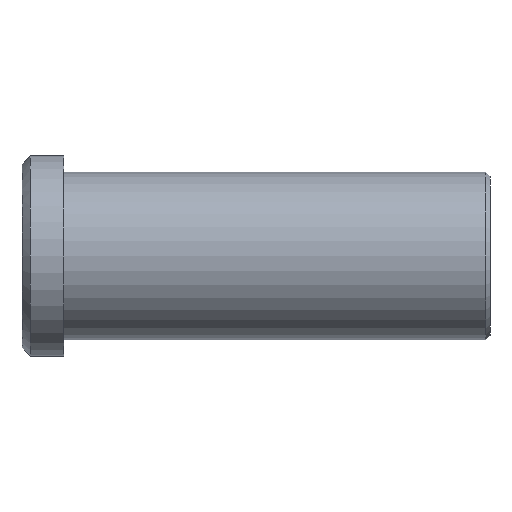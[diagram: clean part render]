
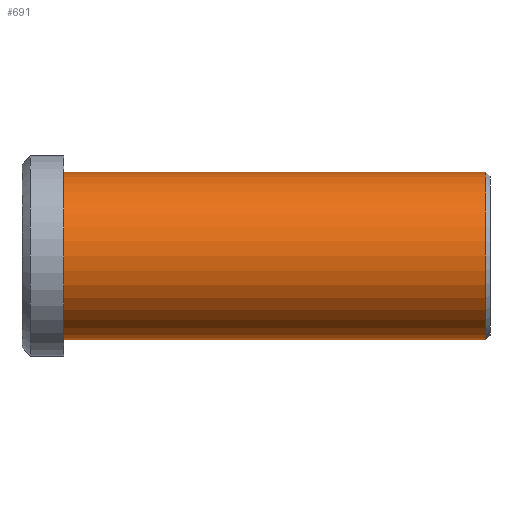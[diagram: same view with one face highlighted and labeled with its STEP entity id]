
A CAD part, front view. The second image highlights one B-rep face of the part: STEP entity #691.
In plain terms, the highlighted cylindrical face has radius 10 mm (diameter 20 mm), a partial arc.
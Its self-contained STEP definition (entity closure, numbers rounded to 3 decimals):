
#501=CARTESIAN_POINT('Vertex',(0.,0.,-10.)) ;
#506=CARTESIAN_POINT('Axis2P3D Location',(0.,0.,0.)) ;
#510=CARTESIAN_POINT('Vertex',(0.,-10.,0.)) ;
#513=CARTESIAN_POINT('Axis2P3D Location',(0.,0.,0.)) ;
#517=CARTESIAN_POINT('Vertex',(0.,0.,10.)) ;
#631=CARTESIAN_POINT('Line Origine',(51.,0.,10.)) ;
#635=CARTESIAN_POINT('Vertex',(50.5,0.,10.)) ;
#649=CARTESIAN_POINT('Vertex',(50.5,0.,-10.)) ;
#652=CARTESIAN_POINT('Line Origine',(51.,0.,-10.)) ;
#666=CARTESIAN_POINT('Axis2P3D Location',(51.,0.,0.)) ;
#671=CARTESIAN_POINT('Axis2P3D Location',(50.5,0.,0.)) ;
#675=CARTESIAN_POINT('Vertex',(50.5,-10.,0.)) ;
#678=CARTESIAN_POINT('Axis2P3D Location',(50.5,0.,0.)) ;
#507=DIRECTION('Axis2P3D Direction',(1.,0.,-0.)) ;
#514=DIRECTION('Axis2P3D Direction',(1.,0.,-0.)) ;
#632=DIRECTION('Vector Direction',(-1.,0.,0.)) ;
#653=DIRECTION('Vector Direction',(-1.,0.,0.)) ;
#667=DIRECTION('Axis2P3D Direction',(-1.,-0.,-0.)) ;
#668=DIRECTION('Axis2P3D XDirection',(0.,0.,-1.)) ;
#672=DIRECTION('Axis2P3D Direction',(-1.,-0.,-0.)) ;
#679=DIRECTION('Axis2P3D Direction',(-1.,-0.,-0.)) ;
#508=AXIS2_PLACEMENT_3D('Circle Axis2P3D',#506,#507,$) ;
#515=AXIS2_PLACEMENT_3D('Circle Axis2P3D',#513,#514,$) ;
#669=AXIS2_PLACEMENT_3D('Cylinder Axis2P3D',#666,#667,#668) ;
#673=AXIS2_PLACEMENT_3D('Circle Axis2P3D',#671,#672,$) ;
#680=AXIS2_PLACEMENT_3D('Circle Axis2P3D',#678,#679,$) ;
#684=ORIENTED_EDGE('',*,*,#656,.T.) ;
#685=ORIENTED_EDGE('',*,*,#677,.F.) ;
#686=ORIENTED_EDGE('',*,*,#682,.F.) ;
#687=ORIENTED_EDGE('',*,*,#637,.T.) ;
#688=ORIENTED_EDGE('',*,*,#519,.T.) ;
#689=ORIENTED_EDGE('',*,*,#512,.T.) ;
#633=VECTOR('Line Direction',#632,1.) ;
#654=VECTOR('Line Direction',#653,1.) ;
#691=ADVANCED_FACE('353-14X56',(#690),#670,.T.) ;
#509=CIRCLE('generated circle',#508,10.) ;
#516=CIRCLE('generated circle',#515,10.) ;
#674=CIRCLE('generated circle',#673,10.) ;
#681=CIRCLE('generated circle',#680,10.) ;
#670=CYLINDRICAL_SURFACE('generated cylinder',#669,10.) ;
#512=EDGE_CURVE('',#511,#502,#509,.T.) ;
#519=EDGE_CURVE('',#518,#511,#516,.T.) ;
#637=EDGE_CURVE('',#636,#518,#634,.T.) ;
#656=EDGE_CURVE('',#502,#650,#655,.F.) ;
#677=EDGE_CURVE('',#676,#650,#674,.F.) ;
#682=EDGE_CURVE('',#636,#676,#681,.F.) ;
#683=EDGE_LOOP('',(#684,#685,#686,#687,#688,#689)) ;
#690=FACE_OUTER_BOUND('',#683,.T.) ;
#634=LINE('Line',#631,#633) ;
#655=LINE('Line',#652,#654) ;
#502=VERTEX_POINT('',#501) ;
#511=VERTEX_POINT('',#510) ;
#518=VERTEX_POINT('',#517) ;
#636=VERTEX_POINT('',#635) ;
#650=VERTEX_POINT('',#649) ;
#676=VERTEX_POINT('',#675) ;
